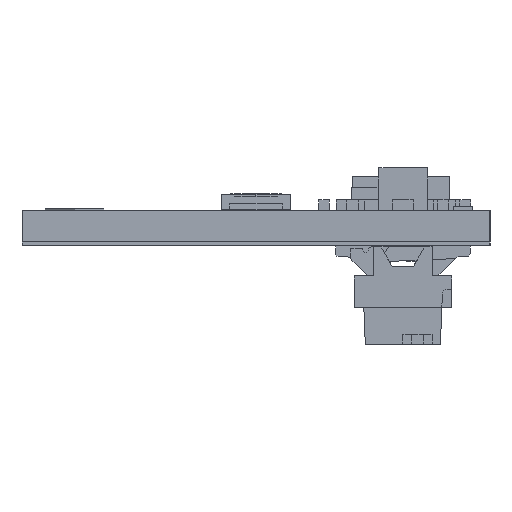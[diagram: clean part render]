
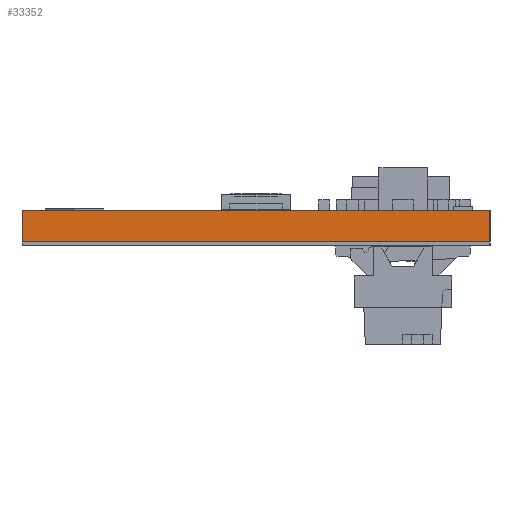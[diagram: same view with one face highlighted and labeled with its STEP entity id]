
A CAD part, left-side view. The second image highlights one B-rep face of the part: STEP entity #33352.
In plain terms, the highlighted planar face has unit normal (-1, 0, 0).
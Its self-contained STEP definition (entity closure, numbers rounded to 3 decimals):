
#555 = VECTOR ( 'NONE', #27950, 1000. ) ;
#673 = CARTESIAN_POINT ( 'NONE',  ( -140., -12., 1.6 ) ) ;
#2517 = EDGE_CURVE ( 'NONE', #72139, #44815, #65226, .T. ) ;
#4787 = EDGE_LOOP ( 'NONE', ( #15005, #21072, #67243, #56784 ) ) ;
#4904 = CARTESIAN_POINT ( 'NONE',  ( -140., 12., 0. ) ) ;
#8658 = VECTOR ( 'NONE', #62064, 1000. ) ;
#9962 = EDGE_CURVE ( 'NONE', #32607, #21843, #28658, .T. ) ;
#10542 = EDGE_CURVE ( 'NONE', #32607, #72139, #19091, .T. ) ;
#15005 = ORIENTED_EDGE ( 'NONE', *, *, #77687, .F. ) ;
#15772 = DIRECTION ( 'NONE',  ( 0., 1., 0. ) ) ;
#19091 = LINE ( 'NONE', #67791, #65606 ) ;
#21072 = ORIENTED_EDGE ( 'NONE', *, *, #9962, .F. ) ;
#21843 = VERTEX_POINT ( 'NONE', #56598 ) ;
#24200 = CARTESIAN_POINT ( 'NONE',  ( -140., -12., 1.6 ) ) ;
#25158 = PLANE ( 'NONE',  #72120 ) ;
#27950 = DIRECTION ( 'NONE',  ( 0., 0., -1. ) ) ;
#28658 = LINE ( 'NONE', #55982, #8658 ) ;
#30232 = LINE ( 'NONE', #58267, #46419 ) ;
#31250 = DIRECTION ( 'NONE',  ( 0., 0., 1. ) ) ;
#32607 = VERTEX_POINT ( 'NONE', #24200 ) ;
#33352 = ADVANCED_FACE ( 'NONE', ( #68248 ), #25158, .T. ) ;
#44815 = VERTEX_POINT ( 'NONE', #4904 ) ;
#46419 = VECTOR ( 'NONE', #15772, 1000. ) ;
#46602 = CARTESIAN_POINT ( 'NONE',  ( -140., 12., 1.6 ) ) ;
#55982 = CARTESIAN_POINT ( 'NONE',  ( -140., -12., 1.6 ) ) ;
#56598 = CARTESIAN_POINT ( 'NONE',  ( -140., -12., 0. ) ) ;
#56784 = ORIENTED_EDGE ( 'NONE', *, *, #2517, .T. ) ;
#58267 = CARTESIAN_POINT ( 'NONE',  ( -140., -12., 0. ) ) ;
#62064 = DIRECTION ( 'NONE',  ( 0., 0., -1. ) ) ;
#65226 = LINE ( 'NONE', #76457, #555 ) ;
#65606 = VECTOR ( 'NONE', #67519, 1000. ) ;
#67243 = ORIENTED_EDGE ( 'NONE', *, *, #10542, .T. ) ;
#67519 = DIRECTION ( 'NONE',  ( 0., 1., 0. ) ) ;
#67630 = DIRECTION ( 'NONE',  ( -1., 0., 0. ) ) ;
#67791 = CARTESIAN_POINT ( 'NONE',  ( -140., -12., 1.6 ) ) ;
#68248 = FACE_OUTER_BOUND ( 'NONE', #4787, .T. ) ;
#72120 = AXIS2_PLACEMENT_3D ( 'NONE', #673, #67630, #31250 ) ;
#72139 = VERTEX_POINT ( 'NONE', #46602 ) ;
#76457 = CARTESIAN_POINT ( 'NONE',  ( -140., 12., 1.6 ) ) ;
#77687 = EDGE_CURVE ( 'NONE', #21843, #44815, #30232, .T. ) ;
